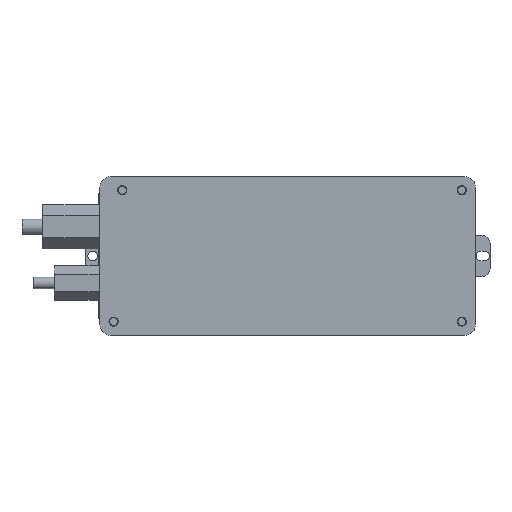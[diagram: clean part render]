
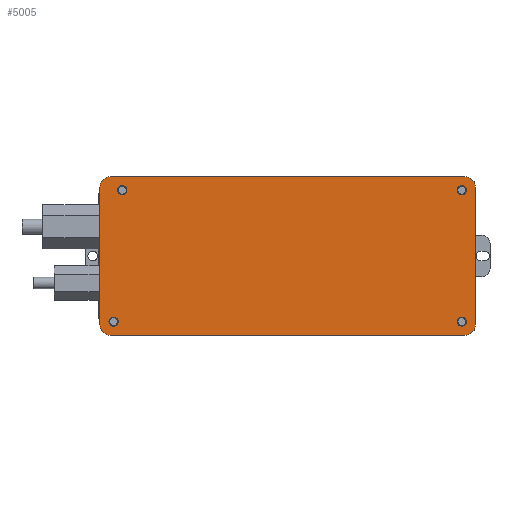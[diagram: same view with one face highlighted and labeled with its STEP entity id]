
A CAD part, top view. The second image highlights one B-rep face of the part: STEP entity #5005.
In plain terms, the highlighted planar face has unit normal (0, 0, 1).
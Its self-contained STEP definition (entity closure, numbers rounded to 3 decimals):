
#4969 = EDGE_CURVE('',#4970,#4972,#4974,.T.);
#4970 = VERTEX_POINT('',#4971);
#4971 = CARTESIAN_POINT('',(0.,5.,39.2));
#4972 = VERTEX_POINT('',#4973);
#4973 = CARTESIAN_POINT('',(0.,71.,39.2));
#4974 = LINE('',#4975,#4976);
#4975 = CARTESIAN_POINT('',(0.,0.,39.2));
#4976 = VECTOR('',#4977,1.);
#4977 = DIRECTION('',(0.,1.,0.));
#5005 = ADVANCED_FACE('',(#5006,#5067,#5078,#5089,#5100),#5111,.T.);
#5006 = FACE_BOUND('',#5007,.T.);
#5007 = EDGE_LOOP('',(#5008,#5009,#5018,#5026,#5035,#5043,#5052,#5060));
#5008 = ORIENTED_EDGE('',*,*,#4969,.F.);
#5009 = ORIENTED_EDGE('',*,*,#5010,.T.);
#5010 = EDGE_CURVE('',#4970,#5011,#5013,.T.);
#5011 = VERTEX_POINT('',#5012);
#5012 = CARTESIAN_POINT('',(5.,0.,39.2));
#5013 = CIRCLE('',#5014,5.);
#5014 = AXIS2_PLACEMENT_3D('',#5015,#5016,#5017);
#5015 = CARTESIAN_POINT('',(5.,5.,39.2));
#5016 = DIRECTION('',(-0.,0.,1.));
#5017 = DIRECTION('',(0.,-1.,0.));
#5018 = ORIENTED_EDGE('',*,*,#5019,.T.);
#5019 = EDGE_CURVE('',#5011,#5020,#5022,.T.);
#5020 = VERTEX_POINT('',#5021);
#5021 = CARTESIAN_POINT('',(175.,0.,39.2));
#5022 = LINE('',#5023,#5024);
#5023 = CARTESIAN_POINT('',(0.,0.,39.2));
#5024 = VECTOR('',#5025,1.);
#5025 = DIRECTION('',(1.,0.,0.));
#5026 = ORIENTED_EDGE('',*,*,#5027,.F.);
#5027 = EDGE_CURVE('',#5028,#5020,#5030,.T.);
#5028 = VERTEX_POINT('',#5029);
#5029 = CARTESIAN_POINT('',(180.,5.,39.2));
#5030 = CIRCLE('',#5031,5.);
#5031 = AXIS2_PLACEMENT_3D('',#5032,#5033,#5034);
#5032 = CARTESIAN_POINT('',(175.,5.,39.2));
#5033 = DIRECTION('',(-0.,-0.,-1.));
#5034 = DIRECTION('',(0.,-1.,0.));
#5035 = ORIENTED_EDGE('',*,*,#5036,.T.);
#5036 = EDGE_CURVE('',#5028,#5037,#5039,.T.);
#5037 = VERTEX_POINT('',#5038);
#5038 = CARTESIAN_POINT('',(180.,71.,39.2));
#5039 = LINE('',#5040,#5041);
#5040 = CARTESIAN_POINT('',(180.,0.,39.2));
#5041 = VECTOR('',#5042,1.);
#5042 = DIRECTION('',(0.,1.,0.));
#5043 = ORIENTED_EDGE('',*,*,#5044,.T.);
#5044 = EDGE_CURVE('',#5037,#5045,#5047,.T.);
#5045 = VERTEX_POINT('',#5046);
#5046 = CARTESIAN_POINT('',(175.,76.,39.2));
#5047 = CIRCLE('',#5048,5.);
#5048 = AXIS2_PLACEMENT_3D('',#5049,#5050,#5051);
#5049 = CARTESIAN_POINT('',(175.,71.,39.2));
#5050 = DIRECTION('',(-0.,0.,1.));
#5051 = DIRECTION('',(0.,-1.,0.));
#5052 = ORIENTED_EDGE('',*,*,#5053,.F.);
#5053 = EDGE_CURVE('',#5054,#5045,#5056,.T.);
#5054 = VERTEX_POINT('',#5055);
#5055 = CARTESIAN_POINT('',(5.,76.,39.2));
#5056 = LINE('',#5057,#5058);
#5057 = CARTESIAN_POINT('',(0.,76.,39.2));
#5058 = VECTOR('',#5059,1.);
#5059 = DIRECTION('',(1.,0.,0.));
#5060 = ORIENTED_EDGE('',*,*,#5061,.F.);
#5061 = EDGE_CURVE('',#4972,#5054,#5062,.T.);
#5062 = CIRCLE('',#5063,5.);
#5063 = AXIS2_PLACEMENT_3D('',#5064,#5065,#5066);
#5064 = CARTESIAN_POINT('',(5.,71.,39.2));
#5065 = DIRECTION('',(-0.,-0.,-1.));
#5066 = DIRECTION('',(0.,-1.,0.));
#5067 = FACE_BOUND('',#5068,.T.);
#5068 = EDGE_LOOP('',(#5069));
#5069 = ORIENTED_EDGE('',*,*,#5070,.F.);
#5070 = EDGE_CURVE('',#5071,#5071,#5073,.T.);
#5071 = VERTEX_POINT('',#5072);
#5072 = CARTESIAN_POINT('',(8.706,6.5,39.2));
#5073 = CIRCLE('',#5074,2.206);
#5074 = AXIS2_PLACEMENT_3D('',#5075,#5076,#5077);
#5075 = CARTESIAN_POINT('',(6.5,6.5,39.2));
#5076 = DIRECTION('',(0.,0.,1.));
#5077 = DIRECTION('',(1.,0.,0.));
#5078 = FACE_BOUND('',#5079,.T.);
#5079 = EDGE_LOOP('',(#5080));
#5080 = ORIENTED_EDGE('',*,*,#5081,.F.);
#5081 = EDGE_CURVE('',#5082,#5082,#5084,.T.);
#5082 = VERTEX_POINT('',#5083);
#5083 = CARTESIAN_POINT('',(175.706,6.5,39.2));
#5084 = CIRCLE('',#5085,2.206);
#5085 = AXIS2_PLACEMENT_3D('',#5086,#5087,#5088);
#5086 = CARTESIAN_POINT('',(173.5,6.5,39.2));
#5087 = DIRECTION('',(0.,0.,1.));
#5088 = DIRECTION('',(1.,0.,0.));
#5089 = FACE_BOUND('',#5090,.T.);
#5090 = EDGE_LOOP('',(#5091));
#5091 = ORIENTED_EDGE('',*,*,#5092,.F.);
#5092 = EDGE_CURVE('',#5093,#5093,#5095,.T.);
#5093 = VERTEX_POINT('',#5094);
#5094 = CARTESIAN_POINT('',(12.906,69.5,39.2));
#5095 = CIRCLE('',#5096,2.206);
#5096 = AXIS2_PLACEMENT_3D('',#5097,#5098,#5099);
#5097 = CARTESIAN_POINT('',(10.7,69.5,39.2));
#5098 = DIRECTION('',(0.,0.,1.));
#5099 = DIRECTION('',(1.,0.,0.));
#5100 = FACE_BOUND('',#5101,.T.);
#5101 = EDGE_LOOP('',(#5102));
#5102 = ORIENTED_EDGE('',*,*,#5103,.F.);
#5103 = EDGE_CURVE('',#5104,#5104,#5106,.T.);
#5104 = VERTEX_POINT('',#5105);
#5105 = CARTESIAN_POINT('',(175.706,69.5,39.2));
#5106 = CIRCLE('',#5107,2.206);
#5107 = AXIS2_PLACEMENT_3D('',#5108,#5109,#5110);
#5108 = CARTESIAN_POINT('',(173.5,69.5,39.2));
#5109 = DIRECTION('',(0.,0.,1.));
#5110 = DIRECTION('',(1.,0.,0.));
#5111 = PLANE('',#5112);
#5112 = AXIS2_PLACEMENT_3D('',#5113,#5114,#5115);
#5113 = CARTESIAN_POINT('',(0.,0.,39.2));
#5114 = DIRECTION('',(0.,0.,1.));
#5115 = DIRECTION('',(1.,0.,0.));
